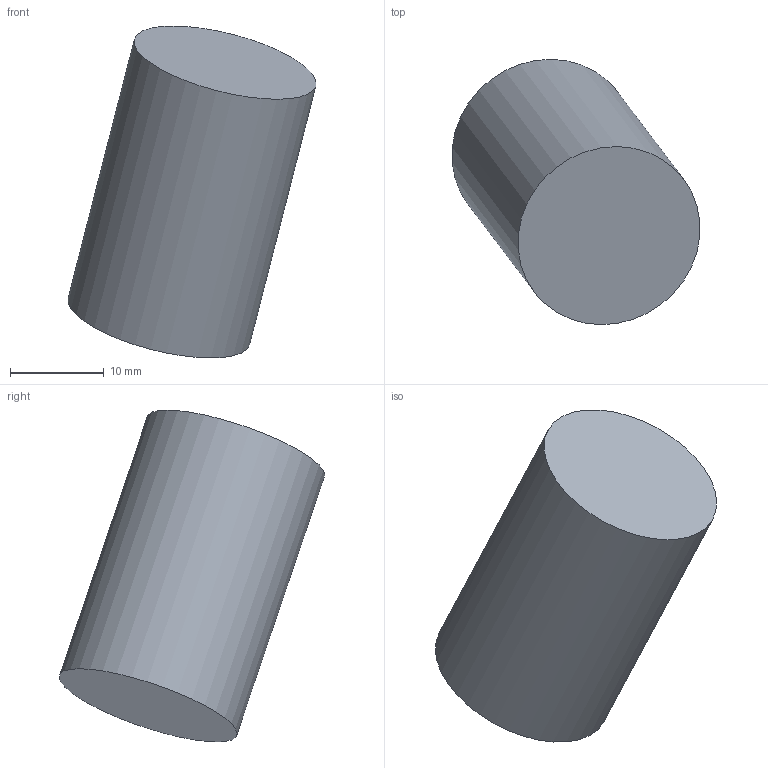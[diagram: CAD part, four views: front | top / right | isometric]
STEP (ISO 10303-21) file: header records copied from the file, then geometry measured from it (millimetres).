
FILE_DESCRIPTION(('FreeCAD Model'),'2;1');
FILE_NAME('Open CASCADE Shape Model','2026-09-11T22:21:23',('FreeCAD'),( 'FreeCAD'),'Open CASCADE STEP processor 7.8','FreeCAD','Unknown');
FILE_SCHEMA(('AUTOMOTIVE_DESIGN { 1 0 10303 214 1 1 1 1 }'));
Length unit declared in the file: millimetre
Products named in the file (1): Open CASCADE STEP translator 7.8 1
Bounding box: 26.43 x 28.36 x 35.43 mm (x, y, z)
Volume: 9424.8 mm3; surface area: 2513.3 mm2
Topology: 1 solids, 1 shells, 3 faces, 3 edges, 2 vertices
Faces by surface type: plane 2, cylinder 1
Full cylindrical faces by diameter (mm): 20 x1
Entity records: 69 total; most frequent: DIRECTION 13, CARTESIAN_POINT 9, AXIS2_PLACEMENT_3D 6, ORIENTED_EDGE 6, ADVANCED_FACE 3, FACE_BOUND 3, EDGE_LOOP 3, EDGE_CURVE 3
